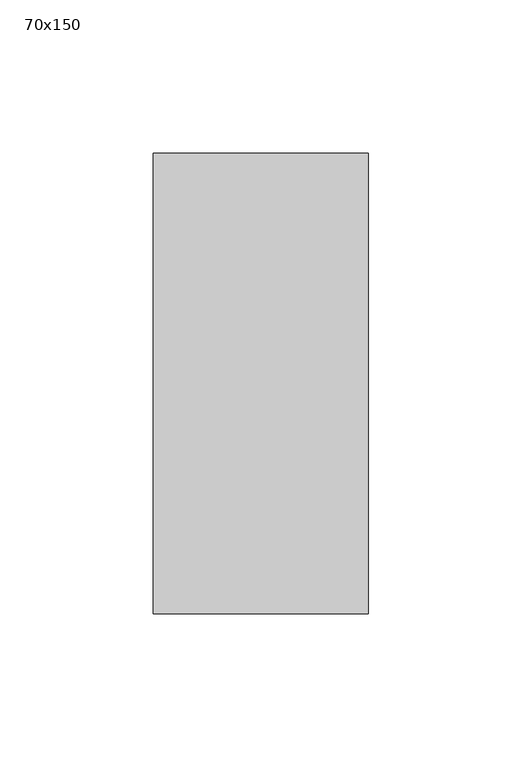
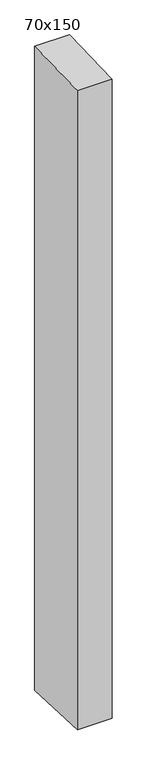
"""IFC4 building model written with IfcOpenShell, lengths in millimetres: member geometry, 長方形のマリオン : 70x150."""

import ifcopenshell
import ifcopenshell.guid

model = None  # the IFC model being written
_history = None  # IfcOwnerHistory: only IFC2X3 demands one
_inside = {}  # id of a spatial element -> (the spatial element, [elements in it])
_under = {}  # id of a project, library or spatial element -> (it, [spatial elements below it])
_declared = {}  # id of a project -> (the project, [libraries it declares])
_typed = {}  # id of a type object -> (the type object, [elements of that type])
_made_of = {}  # id of a material, layer set ... -> (it, [elements and type objects made of it])


def new_model(schema):
    """Start an empty IFC model of exactly this schema.

    Asked for "IFC4X3", IfcOpenShell would pick the latest addendum, in which some entities
    have other attributes; the version numbers below select the first issue.
    IFC2X3 requires an IfcOwnerHistory on every rooted entity: one is made here for all.
    """
    global model, _history
    if schema == "IFC4X3":
        model = ifcopenshell.file(schema_version=(4, 3, 0, 0))
    else:
        model = ifcopenshell.file(schema=schema)
    _inside.clear()
    _under.clear()
    _declared.clear()
    _typed.clear()
    _made_of.clear()
    _history = None
    if model.schema == "IFC2X3":
        org = make("IfcOrganization", Name="unknown")
        user = make(
            "IfcPersonAndOrganization",
            ThePerson=make("IfcPerson", FamilyName="unknown"),
            TheOrganization=org,
        )
        app = make(
            "IfcApplication",
            ApplicationDeveloper=org,
            Version="unknown",
            ApplicationFullName="unknown",
            ApplicationIdentifier="unknown",
        )
        _history = make(
            "IfcOwnerHistory",
            OwningUser=user,
            OwningApplication=app,
            ChangeAction="ADDED",
            CreationDate=0,
        )
    return model


def make(cls, **values):
    """One entity of the class cls with the attributes given. An attribute that is None is left unset."""
    return model.create_entity(
        cls, **{name: value for name, value in values.items() if value is not None}
    )


def rooted(cls, **values):
    """An entity with a GlobalId (a new one), such as an element, a storey or a relation."""
    return make(cls, GlobalId=ifcopenshell.guid.new(), OwnerHistory=_history, **values)


def si_unit(unit_type, name, prefix=None):
    """IfcSIUnit, for example si_unit("LENGTHUNIT", "METRE", prefix="MILLI")."""
    return make("IfcSIUnit", UnitType=unit_type, Prefix=prefix, Name=name)


def assignment(units):
    """IfcUnitAssignment: the units of a project."""
    return None if units is None else make("IfcUnitAssignment", Units=units)


def point(xyz):
    """IfcCartesianPoint."""
    return None if xyz is None else make("IfcCartesianPoint", Coordinates=xyz)


def direction(xyz):
    """IfcDirection."""
    return None if xyz is None else make("IfcDirection", DirectionRatios=xyz)


def frame(location, z_axis=None, x_axis=None):
    """IfcAxis2Placement3D, a coordinate frame: its origin and axes. An axis left out is left unset."""
    return make(
        "IfcAxis2Placement3D",
        Location=point(location),
        Axis=direction(z_axis),
        RefDirection=direction(x_axis),
    )


def origin():
    """The frame at (0, 0, 0) with its axes left unset."""
    return frame((0.0, 0.0, 0.0))


def place(relative_to, where):
    """IfcLocalPlacement: puts the frame where relative to a parent placement (None: the world)."""
    return make(
        "IfcLocalPlacement", PlacementRelTo=relative_to, RelativePlacement=where
    )


def context(
    kind, dimensions, precision=None, world=None, true_north=None, identifier=None
):
    """IfcGeometricRepresentationContext, for example the 3D "Model" context."""
    return make(
        "IfcGeometricRepresentationContext",
        ContextIdentifier=identifier,
        ContextType=kind,
        CoordinateSpaceDimension=dimensions,
        Precision=precision,
        WorldCoordinateSystem=world,
        TrueNorth=true_north,
    )


def project(units=None, contexts=None):
    """IfcProject with its units and contexts."""
    return rooted(
        "IfcProject",
        Name="project",
        RepresentationContexts=contexts,
        UnitsInContext=assignment(units),
    )


def spatial(cls, under=None, at=None, **own):
    """A site, building, storey or space (cls), placed at a placement, below another one or the project."""
    s = rooted(cls, ObjectPlacement=at, **own)
    if under is not None:
        _under.setdefault(under.id(), (under, []))[1].append(s)
    return s


def polyline(points):
    """IfcPolyline through the points."""
    return make("IfcPolyline", Points=[point(p) for p in points])


def outline(outer, holes=None, kind="AREA"):
    """IfcArbitraryClosedProfileDef: a profile drawn as a closed curve; with holes, ...WithVoids."""
    if holes is None:
        return make("IfcArbitraryClosedProfileDef", ProfileType=kind, OuterCurve=outer)
    return make(
        "IfcArbitraryProfileDefWithVoids",
        ProfileType=kind,
        OuterCurve=outer,
        InnerCurves=holes,
    )


def extrude(swept, where, along, depth):
    """IfcExtrudedAreaSolid: the profile swept, set in the frame where, extruded along a direction by depth."""
    return make(
        "IfcExtrudedAreaSolid",
        SweptArea=swept,
        Position=where,
        ExtrudedDirection=direction(along),
        Depth=depth,
    )


def shape(context_of_items, identifier, shape_type, items):
    """IfcShapeRepresentation: the items that make up one representation, for example the "Body"."""
    return make(
        "IfcShapeRepresentation",
        ContextOfItems=context_of_items,
        RepresentationIdentifier=identifier,
        RepresentationType=shape_type,
        Items=items,
    )


def source(mapping_origin, context_of_items, identifier, shape_type, items):
    """IfcRepresentationMap: a shape defined once, which mapped items show again and again."""
    return make(
        "IfcRepresentationMap",
        MappingOrigin=mapping_origin,
        MappedRepresentation=shape(context_of_items, identifier, shape_type, items),
    )


def transform(
    local_origin,
    x_axis=None,
    y_axis=None,
    z_axis=None,
    scale=None,
    scale2=None,
    scale3=None,
    uniform=True,
):
    """IfcCartesianTransformationOperator3D, or its non-uniform kind. x_axis, y_axis, z_axis: its Axis1, 2, 3."""
    if uniform:
        return make(
            "IfcCartesianTransformationOperator3D",
            Axis1=direction(x_axis),
            Axis2=direction(y_axis),
            LocalOrigin=point(local_origin),
            Scale=scale,
            Axis3=direction(z_axis),
        )
    return make(
        "IfcCartesianTransformationOperator3DnonUniform",
        Axis1=direction(x_axis),
        Axis2=direction(y_axis),
        LocalOrigin=point(local_origin),
        Scale=scale,
        Axis3=direction(z_axis),
        Scale2=scale2,
        Scale3=scale3,
    )


def mapped(mapping_source, mapping_target):
    """IfcMappedItem: shows the shape of a source again, moved by a transform."""
    return make(
        "IfcMappedItem", MappingSource=mapping_source, MappingTarget=mapping_target
    )


def made_of(thing, what):
    """Note that an element or type object is made of a material, layer set ...; save() writes the relation."""
    if what is not None:
        _made_of.setdefault(what.id(), (what, []))[1].append(thing)
    return thing


def element(
    cls,
    number,
    at=None,
    inside=None,
    cuts=None,
    type_object=None,
    material=None,
    context=None,
    identifier="Body",
    shape_type=None,
    held_by="IfcProductDefinitionShape",
    body=None,
    shapes=None,
    **own,
):
    """One element of the class cls, such as IfcWall. Its Tag is "e" and its number.

    at: its placement. inside: the storey or other place that contains it. cuts: it is an
    opening in that element (IfcRelVoidsElement). A single representation is given by context,
    identifier, shape_type and body (its items); several are given by shapes. held_by: the class
    of the entity that holds the representations. save() writes the other relations.
    """
    e = rooted(cls, Tag="e%d" % number, ObjectPlacement=at, **own)
    if body is not None:
        shapes = [shape(context, identifier, shape_type, body)]
    if shapes is not None:
        e.Representation = make(held_by, Representations=shapes)
    if inside is not None:
        _inside.setdefault(inside.id(), (inside, []))[1].append(e)
    if cuts is not None:
        rooted(
            "IfcRelVoidsElement", RelatingBuildingElement=cuts, RelatedOpeningElement=e
        )
    if type_object is not None:
        _typed.setdefault(type_object.id(), (type_object, []))[1].append(e)
    return made_of(e, material)


def aggregate(whole, parts):
    """IfcRelAggregates: a whole, such as a stair, and the parts it consists of."""
    return rooted("IfcRelAggregates", RelatingObject=whole, RelatedObjects=parts)


def save(model, path):
    """Write the relations noted so far, then the file.

    IfcRelAggregates (storeys below a building ...), IfcRelContainedInSpatialStructure (elements
    in a storey), IfcRelDefinesByType, IfcRelAssociatesMaterial and IfcRelDeclares: one each for
    every whole, place, type object, material and project.
    """
    for whole, parts in _under.values():
        aggregate(whole, parts)
    for where, things in _inside.values():
        rooted(
            "IfcRelContainedInSpatialStructure",
            RelatedElements=things,
            RelatingStructure=where,
        )
    for kind, things in _typed.values():
        rooted("IfcRelDefinesByType", RelatedObjects=things, RelatingType=kind)
    for what, things in _made_of.values():
        rooted("IfcRelAssociatesMaterial", RelatedObjects=things, RelatingMaterial=what)
    for by, libraries in _declared.values():
        rooted("IfcRelDeclares", RelatingContext=by, RelatedDefinitions=libraries)
    model.write(path)


def member_70x150_a2cf8814(model_context):
    return source(origin(), model_context, "Body", "SweptSolid", [
        extrude(outline(polyline([(-75.0, -1.8591782), (75.0, 1.8591782), (75.0, -1375.8792411), (-75.0, -1369.8087387), (-75.0, -1.8591782)])), frame((-70.0, 0.0, 0.0), z_axis=(1.0, 0.0, 0.0), x_axis=(0.0, 1.0, 0.0)), (0.0, 0.0, 1.0), 70.0),
    ])


if __name__ == "__main__":
    model = new_model("IFC4")
    model_context = context("Model", 3, world=origin())
    ifc_project = project(units=[si_unit("LENGTHUNIT", "METRE", prefix="MILLI")], contexts=[model_context])
    site = spatial("IfcSite", under=ifc_project)
    building = spatial("IfcBuilding", under=site)
    placement = place(None, origin())
    member_70x150_shape = member_70x150_a2cf8814(model_context)
    element("IfcMember", 1, ObjectType="長方形のマリオン : 70x150", at=placement, inside=building, context=model_context, shape_type="MappedRepresentation", body=[
        mapped(member_70x150_shape, transform((0.0, 0.0, 0.0), x_axis=(1.0, 0.0, 0.0), y_axis=(0.0, 1.0, 0.0), z_axis=(0.0, 0.0, 1.0))),
    ])
    save(model, "model.ifc")
